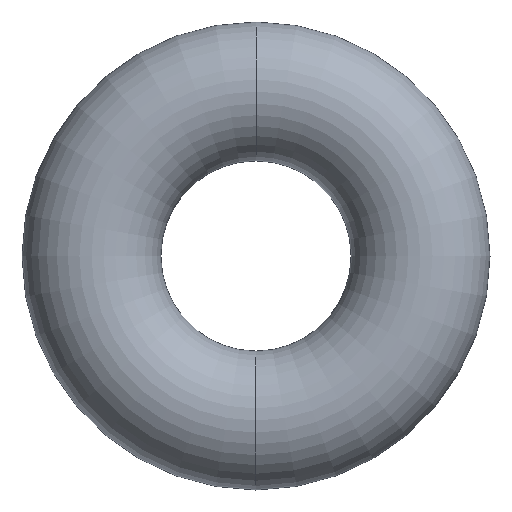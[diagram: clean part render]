
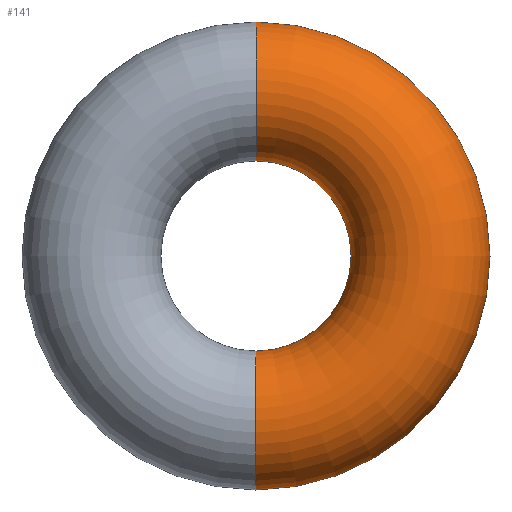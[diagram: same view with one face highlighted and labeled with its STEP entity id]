
A CAD part, front view. The second image highlights one B-rep face of the part: STEP entity #141.
In plain terms, the highlighted toroidal (fillet/blend) face has major radius 285.75 mm and minor radius 120.65 mm.
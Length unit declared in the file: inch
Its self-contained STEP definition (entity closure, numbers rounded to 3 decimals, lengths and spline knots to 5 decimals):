
#55=CARTESIAN_POINT('',(0.,0.,16.0));
#56=VERTEX_POINT('',#55);
#57=CARTESIAN_POINT('',(0.,0.,-16.0));
#58=VERTEX_POINT('',#57);
#66=CARTESIAN_POINT('',(0.,0.,6.5));
#67=VERTEX_POINT('',#66);
#75=CARTESIAN_POINT('',(0.,0.,-6.5));
#76=VERTEX_POINT('',#75);
#99=CARTESIAN_POINT('',(0.0,0.,0.0));
#100=DIRECTION('',(0.0,-1.0,0.0));
#101=DIRECTION('',(0.0,0.0,-1.0));
#102=AXIS2_PLACEMENT_3D('',#99,#100,#101);
#103=CIRCLE('',#102,16.0);
#104=EDGE_CURVE('',#58,#56,#103,.T.);
#107=CARTESIAN_POINT('',(0.0,0.,0.0));
#108=DIRECTION('',(0.0,1.0,0.0));
#109=DIRECTION('',(0.0,0.0,-1.0));
#110=AXIS2_PLACEMENT_3D('',#107,#108,#109);
#111=CIRCLE('',#110,6.5);
#112=EDGE_CURVE('',#67,#76,#111,.T.);
#118=CARTESIAN_POINT('',(0.0,0.0,0.0));
#119=DIRECTION('',(0.0,-1.0,0.0));
#120=DIRECTION('',(0.0,0.0,-1.0));
#121=AXIS2_PLACEMENT_3D('',#118,#119,#120);
#122=TOROIDAL_SURFACE('',#121,11.25,4.75);
#123=ORIENTED_EDGE('',*,*,#104,.T.);
#124=CARTESIAN_POINT('',(0.,0.0,11.25));
#125=DIRECTION('',(-1.0,0.0,0.0));
#126=DIRECTION('',(0.0,0.0,1.0));
#127=AXIS2_PLACEMENT_3D('',#124,#125,#126);
#128=CIRCLE('',#127,4.75);
#129=EDGE_CURVE('',#67,#56,#128,.T.);
#130=ORIENTED_EDGE('',*,*,#129,.F.);
#131=ORIENTED_EDGE('',*,*,#112,.T.);
#132=CARTESIAN_POINT('',(0.,0.0,-11.25));
#133=DIRECTION('',(-1.0,0.0,0.0));
#134=DIRECTION('',(0.0,0.0,-1.0));
#135=AXIS2_PLACEMENT_3D('',#132,#133,#134);
#136=CIRCLE('',#135,4.75);
#137=EDGE_CURVE('',#58,#76,#136,.T.);
#138=ORIENTED_EDGE('',*,*,#137,.F.);
#139=EDGE_LOOP('',(#123,#130,#131,#138));
#140=FACE_OUTER_BOUND('',#139,.T.);
#141=ADVANCED_FACE('',(#140),#122,.T.);
